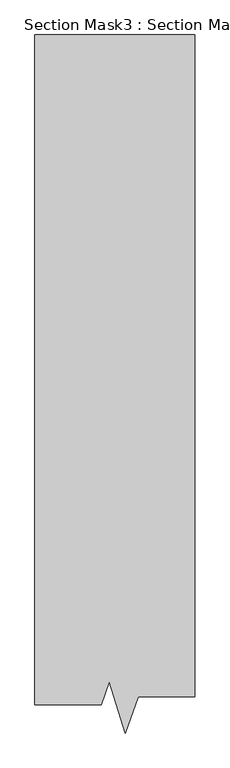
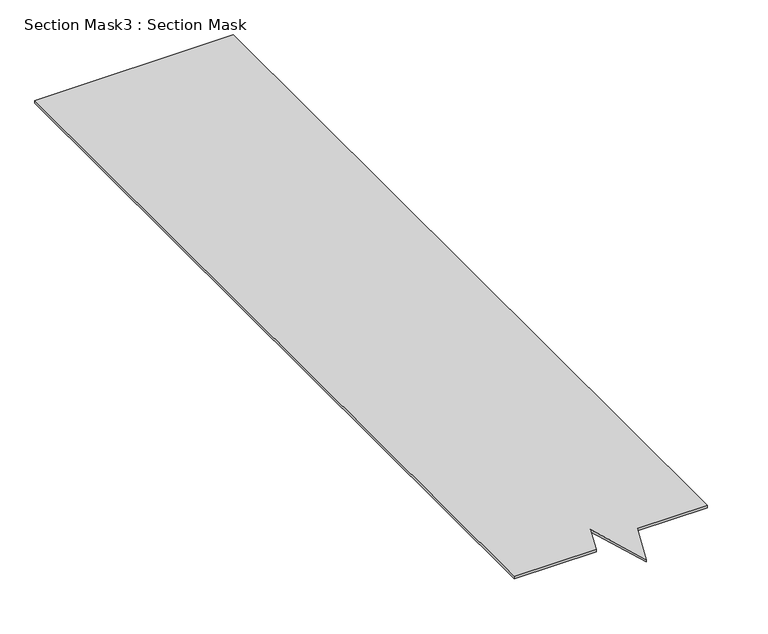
"""IFC4 building model written with IfcOpenShell, lengths in millimetres: proxy geometry, Section Mask3 : Section Mask."""

from ifc_helpers import new_model, si_unit, frame, origin, place, context, project, spatial, polyline, outline, extrude, source, transform, mapped, element, save


def section_mask3_section_mask_f949df2c(model_context):
    return source(origin(), model_context, "Body", "SweptSolid", [
        extrude(outline(polyline([(8124.664325, 631.273934), (7943.5819641, 631.273934), (7943.5819641, 2465.4614947), (8382.0933405, 2465.4614947), (8382.0933405, 652.1224056), (8227.2982256, 652.1224056), (8190.6813689, 552.9595639), (8147.6812645, 693.6065681), (8124.664325, 631.273934)])), frame((0.0, 0.0, 45.0273345), z_axis=(0.0, 0.0, 1.0), x_axis=(1.0, 0.0, 0.0)), (0.0, 0.0, 1.0), 5.6926241),
    ])


if __name__ == "__main__":
    model = new_model("IFC4")
    model_context = context("Model", 3, world=origin())
    ifc_project = project(units=[si_unit("LENGTHUNIT", "METRE", prefix="MILLI")], contexts=[model_context])
    site = spatial("IfcSite", under=ifc_project)
    building = spatial("IfcBuilding", under=site)
    placement = place(None, origin())
    section_mask3_section_mask_shape = section_mask3_section_mask_f949df2c(model_context)
    element("IfcBuildingElementProxy", 1, Name="Section Mask3 : Section Mask", ObjectType="Section Mask3 : Section Mask", at=placement, inside=building, context=model_context, shape_type="MappedRepresentation", body=[
        mapped(section_mask3_section_mask_shape, transform((0.0, 0.0, 0.0), x_axis=(1.0, 0.0, 0.0), y_axis=(0.0, 1.0, 0.0), z_axis=(0.0, 0.0, 1.0))),
    ])
    save(model, "model.ifc")
